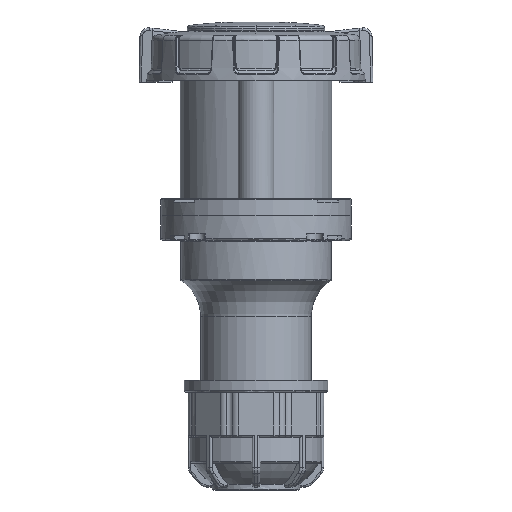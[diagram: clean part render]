
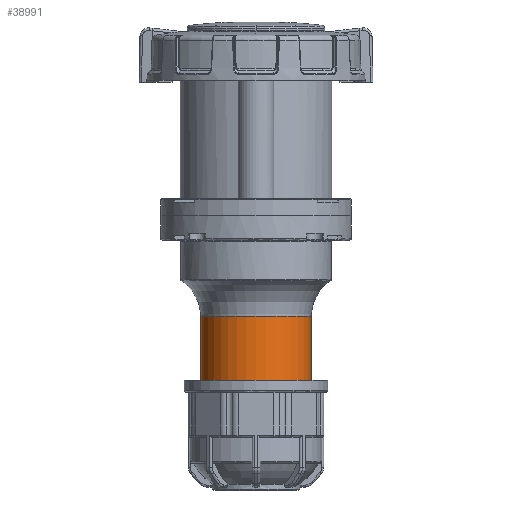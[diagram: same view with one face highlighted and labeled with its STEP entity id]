
A CAD part, front view. The second image highlights one B-rep face of the part: STEP entity #38991.
In plain terms, the highlighted cylindrical face has radius 27.65 mm (diameter 55.3 mm), a partial arc.
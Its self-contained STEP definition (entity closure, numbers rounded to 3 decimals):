
#38991 = ADVANCED_FACE('',(#38992),#39028,.T.);
#38992 = FACE_BOUND('',#38993,.T.);
#38993 = EDGE_LOOP('',(#38994,#39004,#39013,#39021));
#38994 = ORIENTED_EDGE('',*,*,#38995,.F.);
#38995 = EDGE_CURVE('',#38996,#38998,#39000,.T.);
#38996 = VERTEX_POINT('',#38997);
#38997 = CARTESIAN_POINT('',(-27.65,0.,-91.2));
#38998 = VERTEX_POINT('',#38999);
#38999 = CARTESIAN_POINT('',(-27.65,0.,-59.062));
#39000 = LINE('',#39001,#39002);
#39001 = CARTESIAN_POINT('',(-27.65,0.,-59.062)
  );
#39002 = VECTOR('',#39003,1.);
#39003 = DIRECTION('',(0.,0.,1.));
#39004 = ORIENTED_EDGE('',*,*,#39005,.T.);
#39005 = EDGE_CURVE('',#38996,#39006,#39008,.T.);
#39006 = VERTEX_POINT('',#39007);
#39007 = CARTESIAN_POINT('',(27.65,0.,-91.2));
#39008 = CIRCLE('',#39009,27.65);
#39009 = AXIS2_PLACEMENT_3D('',#39010,#39011,#39012);
#39010 = CARTESIAN_POINT('',(0.,0.,-91.2));
#39011 = DIRECTION('',(0.,0.,1.));
#39012 = DIRECTION('',(-1.,0.,0.));
#39013 = ORIENTED_EDGE('',*,*,#39014,.T.);
#39014 = EDGE_CURVE('',#39006,#39015,#39017,.T.);
#39015 = VERTEX_POINT('',#39016);
#39016 = CARTESIAN_POINT('',(27.65,0.,-59.062));
#39017 = LINE('',#39018,#39019);
#39018 = CARTESIAN_POINT('',(27.65,0.,-59.059));
#39019 = VECTOR('',#39020,1.);
#39020 = DIRECTION('',(0.,0.,1.));
#39021 = ORIENTED_EDGE('',*,*,#39022,.T.);
#39022 = EDGE_CURVE('',#39015,#38998,#39023,.T.);
#39023 = CIRCLE('',#39024,27.65);
#39024 = AXIS2_PLACEMENT_3D('',#39025,#39026,#39027);
#39025 = CARTESIAN_POINT('',(0.,0.,-59.062));
#39026 = DIRECTION('',(0.,0.,-1.));
#39027 = DIRECTION('',(1.,0.,0.));
#39028 = CYLINDRICAL_SURFACE('',#39029,27.65);
#39029 = AXIS2_PLACEMENT_3D('',#39030,#39031,#39032);
#39030 = CARTESIAN_POINT('',(0.,0.,-8.5));
#39031 = DIRECTION('',(0.,0.,1.));
#39032 = DIRECTION('',(-1.,0.,0.));
